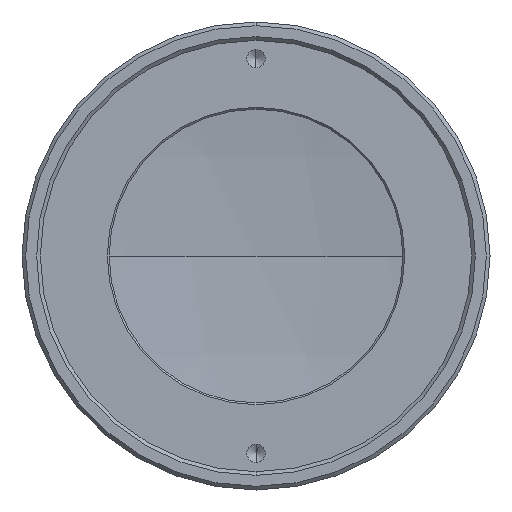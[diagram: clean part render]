
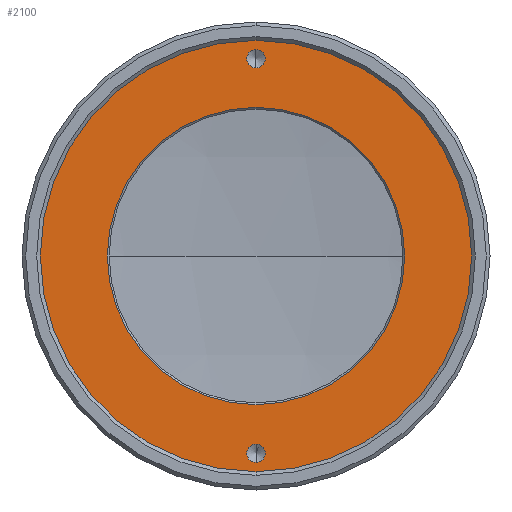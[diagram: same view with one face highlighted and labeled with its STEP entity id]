
A CAD part, front view. The second image highlights one B-rep face of the part: STEP entity #2100.
In plain terms, the highlighted planar face has unit normal (0, -1, 0).
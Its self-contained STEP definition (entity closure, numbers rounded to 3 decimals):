
#49 = AXIS2_PLACEMENT_3D ( 'NONE', #5737, #897, #2205 ) ;
#125 = DIRECTION ( 'NONE',  ( 0., 1., 0. ) ) ;
#199 = EDGE_CURVE ( 'NONE', #2057, #3161, #577, .T. ) ;
#240 = CARTESIAN_POINT ( 'NONE',  ( 0., 50.391, 0. ) ) ;
#274 = DIRECTION ( 'NONE',  ( 0., -1., 0. ) ) ;
#459 = VERTEX_POINT ( 'NONE', #1724 ) ;
#577 = CIRCLE ( 'NONE', #3603, 11.9 ) ;
#604 = ORIENTED_EDGE ( 'NONE', *, *, #1704, .F. ) ;
#633 = FACE_OUTER_BOUND ( 'NONE', #3316, .T. ) ;
#775 = CARTESIAN_POINT ( 'NONE',  ( 0., 50.391, 11.25 ) ) ;
#886 = DIRECTION ( 'NONE',  ( 0., 1., 0. ) ) ;
#897 = DIRECTION ( 'NONE',  ( 0., -1., 0. ) ) ;
#947 = VERTEX_POINT ( 'NONE', #775 ) ;
#966 = EDGE_CURVE ( 'NONE', #2142, #2610, #5237, .T. ) ;
#1082 = DIRECTION ( 'NONE',  ( 0., 0., 1. ) ) ;
#1152 = ORIENTED_EDGE ( 'NONE', *, *, #1673, .F. ) ;
#1204 = VERTEX_POINT ( 'NONE', #4243 ) ;
#1337 = DIRECTION ( 'NONE',  ( 0., 0., 1. ) ) ;
#1353 = DIRECTION ( 'NONE',  ( 0., -1., 0. ) ) ;
#1673 = EDGE_CURVE ( 'NONE', #1204, #5602, #1832, .T. ) ;
#1704 = EDGE_CURVE ( 'NONE', #947, #459, #5085, .T. ) ;
#1724 = CARTESIAN_POINT ( 'NONE',  ( 0., 50.391, 10.25 ) ) ;
#1736 = CARTESIAN_POINT ( 'NONE',  ( 0., 50.391, 11.9 ) ) ;
#1832 = CIRCLE ( 'NONE', #5527, 0.5 ) ;
#1877 = CIRCLE ( 'NONE', #5149, 0.5 ) ;
#1963 = AXIS2_PLACEMENT_3D ( 'NONE', #3279, #125, #1082 ) ;
#2057 = VERTEX_POINT ( 'NONE', #1736 ) ;
#2065 = ORIENTED_EDGE ( 'NONE', *, *, #199, .T. ) ;
#2073 = ORIENTED_EDGE ( 'NONE', *, *, #3038, .F. ) ;
#2100 = ADVANCED_FACE ( 'NONE', ( #4115, #3914, #4721, #633 ), #2165, .T. ) ;
#2117 = AXIS2_PLACEMENT_3D ( 'NONE', #4914, #886, #4880 ) ;
#2142 = VERTEX_POINT ( 'NONE', #4136 ) ;
#2165 = PLANE ( 'NONE',  #4219 ) ;
#2205 = DIRECTION ( 'NONE',  ( 0., 0., 1. ) ) ;
#2302 = CARTESIAN_POINT ( 'NONE',  ( 0., 50.391, 0. ) ) ;
#2395 = DIRECTION ( 'NONE',  ( 0., -1., 0. ) ) ;
#2485 = EDGE_LOOP ( 'NONE', ( #1152, #2073 ) ) ;
#2540 = DIRECTION ( 'NONE',  ( 0., 0., 1. ) ) ;
#2575 = CIRCLE ( 'NONE', #2117, 8.1 ) ;
#2597 = ORIENTED_EDGE ( 'NONE', *, *, #966, .T. ) ;
#2610 = VERTEX_POINT ( 'NONE', #4629 ) ;
#2616 = CARTESIAN_POINT ( 'NONE',  ( 0., 50.391, -11.25 ) ) ;
#2640 = CIRCLE ( 'NONE', #4112, 0.5 ) ;
#3038 = EDGE_CURVE ( 'NONE', #5602, #1204, #2640, .T. ) ;
#3082 = CARTESIAN_POINT ( 'NONE',  ( -8., 50.391, 0. ) ) ;
#3161 = VERTEX_POINT ( 'NONE', #4769 ) ;
#3174 = EDGE_LOOP ( 'NONE', ( #604, #5322 ) ) ;
#3279 = CARTESIAN_POINT ( 'NONE',  ( 0., 50.391, 0. ) ) ;
#3316 = EDGE_LOOP ( 'NONE', ( #3861, #2065 ) ) ;
#3603 = AXIS2_PLACEMENT_3D ( 'NONE', #240, #2395, #5565 ) ;
#3847 = CARTESIAN_POINT ( 'NONE',  ( 0., 50.391, -10.75 ) ) ;
#3861 = ORIENTED_EDGE ( 'NONE', *, *, #4738, .T. ) ;
#3896 = CIRCLE ( 'NONE', #5241, 11.9 ) ;
#3914 = FACE_BOUND ( 'NONE', #3174, .T. ) ;
#3953 = EDGE_CURVE ( 'NONE', #2610, #2142, #2575, .T. ) ;
#3974 = CARTESIAN_POINT ( 'NONE',  ( 0., 50.391, 10.75 ) ) ;
#4112 = AXIS2_PLACEMENT_3D ( 'NONE', #3847, #274, #4751 ) ;
#4115 = FACE_BOUND ( 'NONE', #2485, .T. ) ;
#4132 = EDGE_LOOP ( 'NONE', ( #2597, #4218 ) ) ;
#4136 = CARTESIAN_POINT ( 'NONE',  ( 0., 50.391, 8.1 ) ) ;
#4218 = ORIENTED_EDGE ( 'NONE', *, *, #3953, .T. ) ;
#4219 = AXIS2_PLACEMENT_3D ( 'NONE', #3082, #5219, #4319 ) ;
#4243 = CARTESIAN_POINT ( 'NONE',  ( 0., 50.391, -10.25 ) ) ;
#4319 = DIRECTION ( 'NONE',  ( 0., 0., 1. ) ) ;
#4456 = DIRECTION ( 'NONE',  ( 0., 0., 1. ) ) ;
#4629 = CARTESIAN_POINT ( 'NONE',  ( 0., 50.391, -8.1 ) ) ;
#4721 = FACE_BOUND ( 'NONE', #4132, .T. ) ;
#4738 = EDGE_CURVE ( 'NONE', #3161, #2057, #3896, .T. ) ;
#4751 = DIRECTION ( 'NONE',  ( 0., 0., 1. ) ) ;
#4769 = CARTESIAN_POINT ( 'NONE',  ( 0., 50.391, -11.9 ) ) ;
#4880 = DIRECTION ( 'NONE',  ( 0., 0., 1. ) ) ;
#4890 = CARTESIAN_POINT ( 'NONE',  ( 0., 50.391, -10.75 ) ) ;
#4914 = CARTESIAN_POINT ( 'NONE',  ( 0., 50.391, 0. ) ) ;
#5085 = CIRCLE ( 'NONE', #49, 0.5 ) ;
#5149 = AXIS2_PLACEMENT_3D ( 'NONE', #3974, #5208, #2540 ) ;
#5208 = DIRECTION ( 'NONE',  ( 0., -1., 0. ) ) ;
#5219 = DIRECTION ( 'NONE',  ( 0., -1., 0. ) ) ;
#5237 = CIRCLE ( 'NONE', #1963, 8.1 ) ;
#5241 = AXIS2_PLACEMENT_3D ( 'NONE', #2302, #1353, #4456 ) ;
#5278 = EDGE_CURVE ( 'NONE', #459, #947, #1877, .T. ) ;
#5321 = DIRECTION ( 'NONE',  ( 0., -1., 0. ) ) ;
#5322 = ORIENTED_EDGE ( 'NONE', *, *, #5278, .F. ) ;
#5527 = AXIS2_PLACEMENT_3D ( 'NONE', #4890, #5321, #1337 ) ;
#5565 = DIRECTION ( 'NONE',  ( 0., 0., 1. ) ) ;
#5602 = VERTEX_POINT ( 'NONE', #2616 ) ;
#5737 = CARTESIAN_POINT ( 'NONE',  ( 0., 50.391, 10.75 ) ) ;
